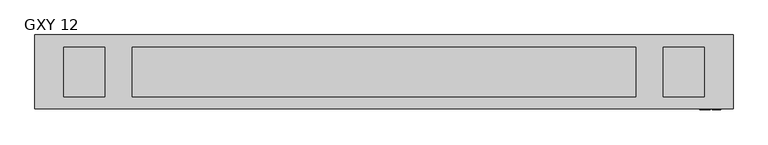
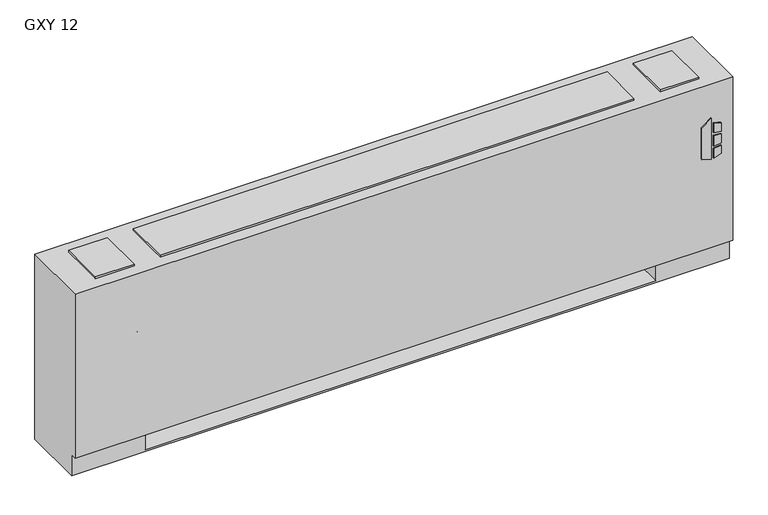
"""IFC4 building model written with IfcOpenShell, lengths in millimetres: proxy geometry, Vertical_Fan_Coil_Unit_-_GXY_-_IEC_-_2-Pipe_TS-FR_LH_2022 : GXY 12."""

from ifc_helpers import new_model, si_unit, point, frame, frame_2d, origin, place, context, project, spatial, polyline, circle_curve, trimmed, segment, composite_curve, outline, extrude, source, transform, mapped, element, save
from ifc_brep_helpers import plane_surface, revolved_surface, advanced_brep


def gxy_12_26e10efb(model_context):
    return source(origin(), model_context, "Body", "SolidModel", [
        extrude(outline(polyline([(391.6086829, 1128.7868862), (381.6606126, 1160.9602728), (523.831537, 1160.9602728), (500.8095309, 1128.7868862), (391.6086829, 1128.7868862)])), frame((0.0, 12.7, 0.0), z_axis=(0.0, 1.0, 0.0), x_axis=(0.0, 0.0, 1.0)), (0.0, 0.0, 1.0), 3.175),
        extrude(outline(polyline([(470.6079683, 1167.7186058), (467.4055757, 1193.8), (496.6344168, 1193.8), (504.6988318, 1167.7186058), (470.6079683, 1167.7186058)])), frame((0.0, 12.7, 0.0), z_axis=(0.0, 1.0, 0.0), x_axis=(0.0, 0.0, 1.0)), (0.0, 0.0, 1.0), 3.175),
        extrude(outline(polyline([(418.7444414, 1193.8), (415.0789404, 1167.7186058), (381.6606126, 1167.7186058), (390.2948498, 1193.8), (418.7444414, 1193.8)])), frame((0.0, 12.7, 0.0), z_axis=(0.0, 1.0, 0.0), x_axis=(0.0, 0.0, 1.0)), (0.0, 0.0, 1.0), 3.175),
        extrude(outline(polyline([(458.0596028, 1193.8), (460.3414292, 1167.7186058), (424.4038806, 1167.7186058), (427.1451456, 1193.8), (458.0596028, 1193.8)])), frame((0.0, 12.7, 0.0), z_axis=(0.0, 1.0, 0.0), x_axis=(0.0, 0.0, 1.0)), (0.0, 0.0, 1.0), 3.175),
        extrude(outline(polyline([(990.6, 81.534), (990.6, 223.266), (1111.25, 223.266), (1111.25, 81.534), (990.6, 81.534)])), frame((0.0, 0.0, 327.025), z_axis=(0.0, 0.0, 1.0), x_axis=(1.0, 0.0, 0.0)), (0.0, 0.0, 1.0), 260.35),
        extrude(outline(polyline([(-711.2, 206.375), (-711.2, 53.975), (-838.2, 53.975), (-838.2, 206.375), (-711.2, 206.375)])), frame((0.0, 0.0, 641.35), z_axis=(0.0, 0.0, 1.0), x_axis=(1.0, 0.0, 0.0)), (0.0, 0.0, 1.0), 6.35),
        extrude(outline(polyline([(1143.0, 206.375), (1143.0, 53.975), (1016.0, 53.975), (1016.0, 206.375), (1143.0, 206.375)])), frame((0.0, 0.0, 641.35), z_axis=(0.0, 0.0, 1.0), x_axis=(1.0, 0.0, 0.0)), (0.0, 0.0, 1.0), 6.35),
        extrude(outline(composite_curve([segment(trimmed(circle_curve(frame_2d((78.9432, 398.5514)), 7.9375), [point((78.9432, 406.4889))], [point((78.9432, 390.6139))], False, "CARTESIAN"), True, "CONTINUOUS"), segment(trimmed(circle_curve(frame_2d((78.9432, 398.5514)), 7.9375), [point((78.9432, 390.6139))], [point((78.9432, 406.4889))], False, "CARTESIAN"), True, "CONTINUOUS")], self_intersect=False)), frame((-736.6, 0.0, 0.0), z_axis=(1.0, 0.0, 0.0), x_axis=(0.0, 1.0, 0.0)), (0.0, 0.0, 1.0), 50.8),
        extrude(outline(composite_curve([segment(trimmed(circle_curve(frame_2d((155.9052, 537.3878)), 7.9375), [point((155.9052, 545.3253))], [point((155.9052, 529.4503))], False, "CARTESIAN"), True, "CONTINUOUS"), segment(trimmed(circle_curve(frame_2d((155.9052, 537.3878)), 7.9375), [point((155.9052, 529.4503))], [point((155.9052, 545.3253))], False, "CARTESIAN"), True, "CONTINUOUS")], self_intersect=False)), frame((-736.6, 0.0, 0.0), z_axis=(1.0, 0.0, 0.0), x_axis=(0.0, 1.0, 0.0)), (0.0, 0.0, 1.0), 50.8),
        advanced_brep(
        [(1231.9, 244.475, 641.35), (-927.1, 244.475, 641.35), (-927.1, 15.875, 641.35), (1231.9, 15.875, 641.35), (-927.1, 244.475, 0.0), (1231.9, 244.475, 0.0), (1231.9, 34.925, 0.0), (-927.1, 34.925, 0.0), (990.6, 244.475, 73.025), (1219.2, 244.475, 73.025), (1219.2, 244.475, 628.65), (990.6, 244.475, 628.65), (990.6, 244.475, 418.0400565), (1019.175, 244.475, 418.0400565), (1019.175, 244.475, 388.4099435), (990.6, 244.475, 388.4099435), (990.6, 244.475, 290.5125), (1019.175, 244.475, 290.5125), (1019.175, 244.475, 261.9375), (990.6, 244.475, 261.9375), (990.6, 244.475, 119.0625), (1019.175, 244.475, 119.0625), (1019.175, 244.475, 90.4875), (990.6, 244.475, 90.4875), (-685.8, 244.475, 628.65), (-914.4, 244.475, 628.65), (-914.4, 244.475, 73.025), (-685.8, 244.475, 73.025), (-685.8, 244.475, 90.4875), (-714.375, 244.475, 90.4875), (-714.375, 244.475, 119.0625), (-685.8, 244.475, 119.0625), (-685.8, 244.475, 261.9375), (-714.375, 244.475, 261.9375), (-714.375, 244.475, 290.5125), (-685.8, 244.475, 290.5125), (-685.8, 244.475, 388.4099435), (-714.375, 244.475, 388.4099435), (-714.375, 244.475, 418.0400565), (-685.8, 244.475, 418.0400565), (1008.8626, 244.475, 104.775), (997.7374, 244.475, 104.775), (1008.8626, 244.475, 403.225), (997.7374, 244.475, 403.225), (1008.8626, 244.475, 276.225), (997.7374, 244.475, 276.225), (-692.9374, 244.475, 104.775), (-704.0626, 244.475, 104.775), (-692.9374, 244.475, 276.225), (-704.0626, 244.475, 276.225), (-692.9374, 244.475, 403.225), (-704.0626, 244.475, 403.225), (-927.1, 34.925, 73.025), (-927.1, 15.875, 73.025), (1231.9, 15.875, 73.025), (1231.9, 34.925, 73.025), (-685.8, 34.925, 73.025), (-685.8, 219.075, 73.025), (990.6, 219.075, 73.025), (990.6, 34.925, 73.025), (990.6, 34.925, 6.35), (-685.8, 34.925, 6.35), (990.6, 41.275, 628.65), (1219.2, 41.275, 628.65), (1219.2, 41.275, 73.025), (990.6, 41.275, 73.025), (-685.8, 41.275, 628.65), (-685.8, 41.275, 73.025), (-914.4, 41.275, 73.025), (-914.4, 41.275, 628.65), (990.6, 219.075, 73.025), (990.6, 238.125, 90.4875), (990.6, 238.125, 119.0625), (990.6, 238.125, 261.9375), (990.6, 238.125, 290.5125), (990.6, 238.125, 388.4099435), (990.6, 238.125, 418.0400565), (-685.8, 219.075, 73.025), (-685.8, 238.125, 418.0400565), (-685.8, 238.125, 388.4099435), (-685.8, 238.125, 290.5125), (-685.8, 238.125, 261.9375), (-685.8, 238.125, 119.0625), (-685.8, 238.125, 90.4875), (-685.8, 219.075, 6.35), (990.6, 219.075, 6.35), (1019.175, 238.125, 90.4875), (1019.175, 238.125, 119.0625), (997.7374, 238.125, 104.775), (1008.8626, 238.125, 104.775), (1019.175, 238.125, 261.9375), (1019.175, 238.125, 290.5125), (997.7374, 238.125, 276.225), (1008.8626, 238.125, 276.225), (1019.175, 238.125, 388.4099435), (1019.175, 238.125, 418.0400565), (997.7374, 238.125, 403.225), (1008.8626, 238.125, 403.225), (-714.375, 238.125, 119.0625), (-714.375, 238.125, 90.4875), (-704.0626, 238.125, 104.775), (-692.9374, 238.125, 104.775), (-714.375, 238.125, 290.5125), (-714.375, 238.125, 261.9375), (-704.0626, 238.125, 276.225), (-692.9374, 238.125, 276.225), (-714.375, 238.125, 418.0400565), (-714.375, 238.125, 388.4099435), (-704.0626, 238.125, 403.225), (-692.9374, 238.125, 403.225)],
        [
            (0, 1),
            (1, 2),
            (2, 3),
            (3, 0),
            (4, 5),
            (5, 6),
            (6, 7),
            (7, 4),
            (0, 5),
            (4, 1),
            (8, 9),
            (9, 10),
            (10, 11),
            (11, 12),
            (12, 13),
            (13, 14),
            (14, 15),
            (15, 16),
            (16, 17),
            (17, 18),
            (18, 19),
            (19, 20),
            (20, 21),
            (21, 22),
            (22, 23),
            (23, 8),
            (24, 25),
            (25, 26),
            (26, 27),
            (27, 28),
            (28, 29),
            (29, 30),
            (30, 31),
            (31, 32),
            (32, 33),
            (33, 34),
            (34, 35),
            (35, 36),
            (36, 37),
            (37, 38),
            (38, 39),
            (39, 24),
            (40, 41, circle_curve(frame((1003.3, 244.475, 104.775), z_axis=(0.0, -1.0, 0.0), x_axis=(-1.0, 0.0, 0.0)), 5.5626)),
            (41, 40, circle_curve(frame((1003.3, 244.475, 104.775), z_axis=(0.0, -1.0, 0.0), x_axis=(-1.0, 0.0, 0.0)), 5.5626)),
            (42, 43, circle_curve(frame((1003.3, 244.475, 403.225), z_axis=(0.0, -1.0, 0.0), x_axis=(-1.0, 0.0, 0.0)), 5.5626)),
            (43, 42, circle_curve(frame((1003.3, 244.475, 403.225), z_axis=(0.0, -1.0, 0.0), x_axis=(-1.0, 0.0, 0.0)), 5.5626)),
            (44, 45, circle_curve(frame((1003.3, 244.475, 276.225), z_axis=(0.0, -1.0, 0.0), x_axis=(-1.0, 0.0, 0.0)), 5.5626)),
            (45, 44, circle_curve(frame((1003.3, 244.475, 276.225), z_axis=(0.0, -1.0, 0.0), x_axis=(-1.0, 0.0, 0.0)), 5.5626)),
            (46, 47, circle_curve(frame((-698.5, 244.475, 104.775), z_axis=(0.0, -1.0, 0.0), x_axis=(-1.0, 0.0, 0.0)), 5.5626)),
            (47, 46, circle_curve(frame((-698.5, 244.475, 104.775), z_axis=(0.0, -1.0, 0.0), x_axis=(-1.0, 0.0, 0.0)), 5.5626)),
            (48, 49, circle_curve(frame((-698.5, 244.475, 276.225), z_axis=(0.0, -1.0, 0.0), x_axis=(-1.0, 0.0, 0.0)), 5.5626)),
            (49, 48, circle_curve(frame((-698.5, 244.475, 276.225), z_axis=(0.0, -1.0, 0.0), x_axis=(-1.0, 0.0, 0.0)), 5.5626)),
            (50, 51, circle_curve(frame((-698.5, 244.475, 403.225), z_axis=(0.0, -1.0, 0.0), x_axis=(-1.0, 0.0, 0.0)), 5.5626)),
            (51, 50, circle_curve(frame((-698.5, 244.475, 403.225), z_axis=(0.0, -1.0, 0.0), x_axis=(-1.0, 0.0, 0.0)), 5.5626)),
            (7, 52),
            (52, 53),
            (53, 2),
            (53, 54),
            (54, 3),
            (54, 55),
            (55, 6),
            (52, 56),
            (56, 57),
            (57, 58),
            (58, 59),
            (59, 55),
            (59, 60),
            (60, 61),
            (61, 56),
            (62, 63),
            (63, 64),
            (64, 65),
            (65, 62),
            (66, 67),
            (67, 68),
            (68, 69),
            (69, 66),
            (65, 70),
            (70, 8),
            (23, 71),
            (71, 72),
            (72, 20),
            (19, 73),
            (73, 74),
            (74, 16),
            (15, 75),
            (75, 76),
            (76, 12),
            (11, 62),
            (64, 9),
            (63, 10),
            (69, 25),
            (24, 66),
            (68, 26),
            (67, 77),
            (77, 27),
            (39, 78),
            (78, 79),
            (79, 36),
            (35, 80),
            (80, 81),
            (81, 32),
            (31, 82),
            (82, 83),
            (83, 28),
            (57, 84),
            (84, 85),
            (85, 58),
            (85, 60),
            (84, 61),
            (71, 86),
            (86, 87),
            (87, 72),
            (88, 89, circle_curve(frame((1003.3, 238.125, 104.775), z_axis=(0.0, 1.0, 0.0), x_axis=(-1.0, 0.0, 0.0)), 5.5626)),
            (89, 88, circle_curve(frame((1003.3, 238.125, 104.775), z_axis=(0.0, 1.0, 0.0), x_axis=(-1.0, 0.0, 0.0)), 5.5626)),
            (73, 90),
            (90, 91),
            (91, 74),
            (92, 93, circle_curve(frame((1003.3, 238.125, 276.225), z_axis=(0.0, 1.0, 0.0), x_axis=(-1.0, 0.0, 0.0)), 5.5626)),
            (93, 92, circle_curve(frame((1003.3, 238.125, 276.225), z_axis=(0.0, 1.0, 0.0), x_axis=(-1.0, 0.0, 0.0)), 5.5626)),
            (75, 94),
            (94, 95),
            (95, 76),
            (96, 97, circle_curve(frame((1003.3, 238.125, 403.225), z_axis=(0.0, 1.0, 0.0), x_axis=(-1.0, 0.0, 0.0)), 5.5626)),
            (97, 96, circle_curve(frame((1003.3, 238.125, 403.225), z_axis=(0.0, 1.0, 0.0), x_axis=(-1.0, 0.0, 0.0)), 5.5626)),
            (98, 99),
            (99, 83),
            (82, 98),
            (100, 101, circle_curve(frame((-698.5, 238.125, 104.775), z_axis=(0.0, 1.0, 0.0), x_axis=(-1.0, 0.0, 0.0)), 5.5626)),
            (101, 100, circle_curve(frame((-698.5, 238.125, 104.775), z_axis=(0.0, 1.0, 0.0), x_axis=(-1.0, 0.0, 0.0)), 5.5626)),
            (102, 103),
            (103, 81),
            (80, 102),
            (104, 105, circle_curve(frame((-698.5, 238.125, 276.225), z_axis=(0.0, 1.0, 0.0), x_axis=(-1.0, 0.0, 0.0)), 5.5626)),
            (105, 104, circle_curve(frame((-698.5, 238.125, 276.225), z_axis=(0.0, 1.0, 0.0), x_axis=(-1.0, 0.0, 0.0)), 5.5626)),
            (106, 107),
            (107, 79),
            (78, 106),
            (108, 109, circle_curve(frame((-698.5, 238.125, 403.225), z_axis=(0.0, 1.0, 0.0), x_axis=(-1.0, 0.0, 0.0)), 5.5626)),
            (109, 108, circle_curve(frame((-698.5, 238.125, 403.225), z_axis=(0.0, 1.0, 0.0), x_axis=(-1.0, 0.0, 0.0)), 5.5626)),
            (87, 21),
            (86, 22),
            (91, 17),
            (90, 18),
            (95, 13),
            (94, 14),
            (30, 98),
            (99, 29),
            (34, 102),
            (103, 33),
            (38, 106),
            (107, 37),
            (88, 41),
            (40, 89),
            (96, 43),
            (42, 97),
            (92, 45),
            (44, 93),
            (100, 47),
            (46, 101),
            (104, 49),
            (48, 105),
            (108, 51),
            (50, 109),
        ],
        [
            plane_surface(frame((-927.1, 244.475, 641.35), z_axis=(0.0, 0.0, 1.0), x_axis=(-1.0, 0.0, 0.0))),
            plane_surface(frame((-927.1, 244.475, 0.0), z_axis=(0.0, 0.0, -1.0), x_axis=(1.0, 0.0, 0.0))),
            plane_surface(frame((1231.9, 244.475, 641.35), z_axis=(0.0, 1.0, 0.0), x_axis=(0.0, 0.0, -1.0))),
            plane_surface(frame((-927.1, 244.475, 641.35), z_axis=(-1.0, 0.0, 0.0), x_axis=(0.0, 0.0, -1.0))),
            plane_surface(frame((-927.1, 15.875, 641.35), z_axis=(0.0, -1.0, 0.0), x_axis=(0.0, 0.0, -1.0))),
            plane_surface(frame((1231.9, 15.875, 641.35), z_axis=(1.0, 0.0, 0.0), x_axis=(0.0, 0.0, -1.0))),
            plane_surface(frame((-927.1, 15.875, 73.025), z_axis=(0.0, 0.0, -1.0), x_axis=(1.0, 0.0, 0.0))),
            plane_surface(frame((-927.1, 34.925, 73.025), z_axis=(0.0, -1.0, 0.0), x_axis=(1.0, 0.0, 0.0))),
            plane_surface(frame((990.6, 41.275, 628.65), z_axis=(0.0, 1.0, 0.0), x_axis=(0.0, 0.0, -1.0))),
            plane_surface(frame((990.6, 41.275, 628.65), z_axis=(1.0, 0.0, 0.0), x_axis=(0.0, 1.0, 0.0))),
            plane_surface(frame((990.6, 41.275, 73.025), z_axis=(0.0, 0.0, 1.0), x_axis=(0.0, 1.0, 0.0))),
            plane_surface(frame((1219.2, 41.275, 73.025), z_axis=(-1.0, 0.0, 0.0), x_axis=(0.0, 1.0, 0.0))),
            plane_surface(frame((1219.2, 41.275, 628.65), z_axis=(0.0, 0.0, -1.0), x_axis=(0.0, 1.0, 0.0))),
            plane_surface(frame((-685.8, 41.275, 628.65), z_axis=(0.0, 0.0, -1.0), x_axis=(0.0, 1.0, 0.0))),
            plane_surface(frame((-914.4, 41.275, 628.65), z_axis=(1.0, 0.0, 0.0), x_axis=(0.0, 1.0, 0.0))),
            plane_surface(frame((-914.4, 41.275, 73.025), z_axis=(0.0, 0.0, 1.0), x_axis=(0.0, 1.0, 0.0))),
            plane_surface(frame((-685.8, 41.275, 73.025), z_axis=(-1.0, 0.0, 0.0), x_axis=(0.0, 1.0, 0.0))),
            plane_surface(frame((990.6, 219.075, 73.025), z_axis=(0.0, -1.0, 0.0), x_axis=(0.0, 0.0, -1.0))),
            plane_surface(frame((990.6, 219.075, 73.025), z_axis=(-1.0, 0.0, 0.0), x_axis=(0.0, -1.0, 0.0))),
            plane_surface(frame((990.6, 219.075, 6.35), z_axis=(0.0, 0.0, 1.0), x_axis=(0.0, -1.0, 0.0))),
            plane_surface(frame((-685.8, 219.075, 6.35), z_axis=(1.0, 0.0, 0.0), x_axis=(0.0, -1.0, 0.0))),
            plane_surface(frame((1019.175, 238.125, 119.0625), z_axis=(0.0, -1.0, 0.0), x_axis=(-1.0, 0.0, 0.0))),
            plane_surface(frame((990.6, 244.475, 119.0625), z_axis=(0.0, 0.0, 1.0), x_axis=(0.0, -1.0, 0.0))),
            plane_surface(frame((1019.175, 244.475, 119.0625), z_axis=(1.0, 0.0, 0.0), x_axis=(0.0, -1.0, 0.0))),
            plane_surface(frame((1019.175, 244.475, 90.4875), z_axis=(0.0, 0.0, -1.0), x_axis=(0.0, -1.0, 0.0))),
            plane_surface(frame((990.6, 244.475, 290.5125), z_axis=(0.0, 0.0, 1.0), x_axis=(0.0, -1.0, 0.0))),
            plane_surface(frame((1019.175, 244.475, 290.5125), z_axis=(1.0, 0.0, 0.0), x_axis=(0.0, -1.0, 0.0))),
            plane_surface(frame((1019.175, 244.475, 261.9375), z_axis=(0.0, 0.0, -1.0), x_axis=(0.0, -1.0, 0.0))),
            plane_surface(frame((990.6, 244.475, 418.0400565), z_axis=(0.0, 0.0, 1.0), x_axis=(0.0, -1.0, 0.0))),
            plane_surface(frame((1019.175, 244.475, 418.0400565), z_axis=(1.0, 0.0, 0.0), x_axis=(0.0, -1.0, 0.0))),
            plane_surface(frame((1019.175, 244.475, 388.4099435), z_axis=(0.0, 0.0, -1.0), x_axis=(0.0, -1.0, 0.0))),
            plane_surface(frame((-714.375, 244.475, 119.0625), z_axis=(0.0, 0.0, 1.0), x_axis=(0.0, -1.0, 0.0))),
            plane_surface(frame((-685.8, 244.475, 90.4875), z_axis=(0.0, 0.0, -1.0), x_axis=(0.0, -1.0, 0.0))),
            plane_surface(frame((-714.375, 244.475, 90.4875), z_axis=(-1.0, 0.0, 0.0), x_axis=(0.0, -1.0, 0.0))),
            plane_surface(frame((-714.375, 244.475, 290.5125), z_axis=(0.0, 0.0, 1.0), x_axis=(0.0, -1.0, 0.0))),
            plane_surface(frame((-685.8, 244.475, 261.9375), z_axis=(0.0, 0.0, -1.0), x_axis=(0.0, -1.0, 0.0))),
            plane_surface(frame((-714.375, 244.475, 261.9375), z_axis=(-1.0, 0.0, 0.0), x_axis=(0.0, -1.0, 0.0))),
            plane_surface(frame((-714.375, 244.475, 418.0400565), z_axis=(0.0, 0.0, 1.0), x_axis=(0.0, -1.0, 0.0))),
            plane_surface(frame((-685.8, 244.475, 388.4099435), z_axis=(0.0, 0.0, -1.0), x_axis=(0.0, -1.0, 0.0))),
            plane_surface(frame((-714.375, 244.475, 388.4099435), z_axis=(-1.0, 0.0, 0.0), x_axis=(0.0, -1.0, 0.0))),
            revolved_surface(polyline([(997.7374, 238.125, 104.775), (997.7374, 244.475, 104.775)]), (1003.3, 244.475, 104.775), (0.0, -1.0, 0.0)),
            revolved_surface(polyline([(997.7374, 238.125, 403.225), (997.7374, 244.475, 403.225)]), (1003.3, 244.475, 403.225), (0.0, -1.0, 0.0)),
            revolved_surface(polyline([(997.7374, 238.125, 276.225), (997.7374, 244.475, 276.225)]), (1003.3, 244.475, 276.225), (0.0, -1.0, 0.0)),
            revolved_surface(polyline([(-704.0626, 238.125, 104.775), (-704.0626, 244.475, 104.775)]), (-698.5, 244.475, 104.775), (0.0, -1.0, 0.0)),
            revolved_surface(polyline([(-704.0626, 238.125, 276.225), (-704.0626, 244.475, 276.225)]), (-698.5, 244.475, 276.225), (0.0, -1.0, 0.0)),
            revolved_surface(polyline([(-704.0626, 238.125, 403.225), (-704.0626, 244.475, 403.225)]), (-698.5, 244.475, 403.225), (0.0, -1.0, 0.0)),
        ],
        [
            (0, [[1, 2, 3, 4]]),
            (1, [[5, 6, 7, 8]]),
            (2, [[-1, 9, -5, 10], [11, 12, 13, 14, 15, 16, 17, 18, 19, 20, 21, 22, 23, 24, 25, 26], [27, 28, 29, 30, 31, 32, 33, 34, 35, 36, 37, 38, 39, 40, 41, 42], [43, 44], [45, 46], [47, 48], [49, 50], [51, 52], [53, 54]]),
            (3, [[-2, -10, -8, 55, 56, 57]]),
            (4, [[-3, -57, 58, 59]]),
            (5, [[-4, -59, 60, 61, -6, -9]]),
            (6, [[-56, 62, 63, 64, 65, 66, -60, -58]]),
            (7, [[-7, -61, -66, 67, 68, 69, -62, -55]]),
            (8, [[70, 71, 72, 73]]),
            (8, [[74, 75, 76, 77]]),
            (9, [[-73, 78, 79, -26, 80, 81, 82, -22, 83, 84, 85, -18, 86, 87, 88, -14, 89]]),
            (10, [[-72, 90, -11, -79, -78]]),
            (11, [[-71, 91, -12, -90]]),
            (12, [[-70, -89, -13, -91]]),
            (13, [[-77, 92, -27, 93]]),
            (14, [[-76, 94, -28, -92]]),
            (15, [[-75, 95, 96, -29, -94]]),
            (16, [[-74, -93, -42, 97, 98, 99, -38, 100, 101, 102, -34, 103, 104, 105, -30, -96, -95]]),
            (17, [[-64, 106, 107, 108]]),
            (18, [[-108, 109, -67, -65]]),
            (19, [[-107, 110, -68, -109]]),
            (20, [[-106, -63, -69, -110]]),
            (21, [[111, 112, 113, -81], [114, 115]]),
            (21, [[116, 117, 118, -84], [119, 120]]),
            (21, [[121, 122, 123, -87], [124, 125]]),
            (21, [[126, 127, -104, 128], [129, 130]]),
            (21, [[131, 132, -101, 133], [134, 135]]),
            (21, [[136, 137, -98, 138], [139, 140]]),
            (22, [[-113, 141, -23, -82]]),
            (23, [[-112, 142, -24, -141]]),
            (24, [[-111, -80, -25, -142]]),
            (25, [[-118, 143, -19, -85]]),
            (26, [[-117, 144, -20, -143]]),
            (27, [[-116, -83, -21, -144]]),
            (28, [[-123, 145, -15, -88]]),
            (29, [[-122, 146, -16, -145]]),
            (30, [[-121, -86, -17, -146]]),
            (31, [[-128, -103, -33, 147]]),
            (32, [[-127, 148, -31, -105]]),
            (33, [[-126, -147, -32, -148]]),
            (34, [[-133, -100, -37, 149]]),
            (35, [[-132, 150, -35, -102]]),
            (36, [[-131, -149, -36, -150]]),
            (37, [[-138, -97, -41, 151]]),
            (38, [[-137, 152, -39, -99]]),
            (39, [[-136, -151, -40, -152]]),
            (40, [[153, -43, 154, -114]]),
            (40, [[-153, -115, -154, -44]]),
            (41, [[155, -45, 156, -124]]),
            (41, [[-155, -125, -156, -46]]),
            (42, [[157, -47, 158, -119]]),
            (42, [[-157, -120, -158, -48]]),
            (43, [[159, -49, 160, -129]]),
            (43, [[-159, -130, -160, -50]]),
            (44, [[161, -51, 162, -134]]),
            (44, [[-161, -135, -162, -52]]),
            (45, [[163, -53, 164, -139]]),
            (45, [[-163, -140, -164, -54]]),
        ],
    ),
        extrude(outline(polyline([(930.275, 206.375), (930.275, 53.975), (-625.475, 53.975), (-625.475, 206.375), (930.275, 206.375)])), frame((0.0, 0.0, 641.35), z_axis=(0.0, 0.0, 1.0), x_axis=(1.0, 0.0, 0.0)), (0.0, 0.0, 1.0), 6.35),
    ])


if __name__ == "__main__":
    model = new_model("IFC4")
    model_context = context("Model", 3, world=origin())
    ifc_project = project(units=[si_unit("LENGTHUNIT", "METRE", prefix="MILLI")], contexts=[model_context])
    site = spatial("IfcSite", under=ifc_project)
    building = spatial("IfcBuilding", under=site)
    placement = place(None, origin())
    gxy_12_shape = gxy_12_26e10efb(model_context)
    element("IfcBuildingElementProxy", 1, Name="Vertical_Fan_Coil_Unit_-_GXY_-_IEC_-_2-Pipe_TS-FR_LH_2022 : GXY 12", ObjectType="Vertical_Fan_Coil_Unit_-_GXY_-_IEC_-_2-Pipe_TS-FR_LH_2022 : GXY 12", at=placement, inside=building, context=model_context, shape_type="MappedRepresentation", body=[
        mapped(gxy_12_shape, transform((0.0, 0.0, 0.0), x_axis=(1.0, 0.0, 0.0), y_axis=(0.0, 1.0, 0.0), z_axis=(0.0, 0.0, 1.0))),
    ])
    save(model, "model.ifc")
